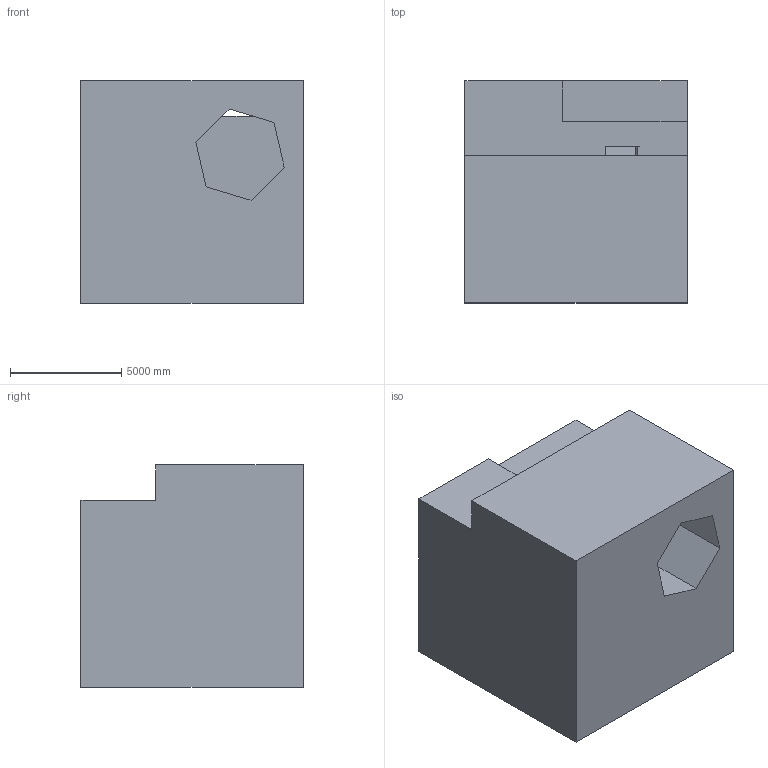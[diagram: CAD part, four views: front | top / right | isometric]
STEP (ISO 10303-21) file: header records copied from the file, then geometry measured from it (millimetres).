
FILE_DESCRIPTION (( 'STEP AP203' ), '1' );
FILE_NAME ('292.STEP', '2022-07-28T14:13:58', ( 'user' ), ( '' ), 'SwSTEP 2.0', 'SolidWorks 2021', '' );
FILE_SCHEMA (( 'CONFIG_CONTROL_DESIGN' ));
Length unit declared in the file: centimetre
Products named in the file (1): 292
Bounding box: 10000 x 10000 x 10000 mm (x, y, z)
Volume: 859152542027.7 mm3; surface area: 676357489.3 mm2
Topology: 1 solids, 1 shells, 18 faces, 51 edges, 34 vertices
Faces by surface type: plane 18
Entity records: 656 total; most frequent: CARTESIAN_POINT 104, ORIENTED_EDGE 102, DIRECTION 89, EDGE_CURVE 51, LINE 51, VECTOR 51, VERTEX_POINT 34, AXIS2_PLACEMENT_3D 19
